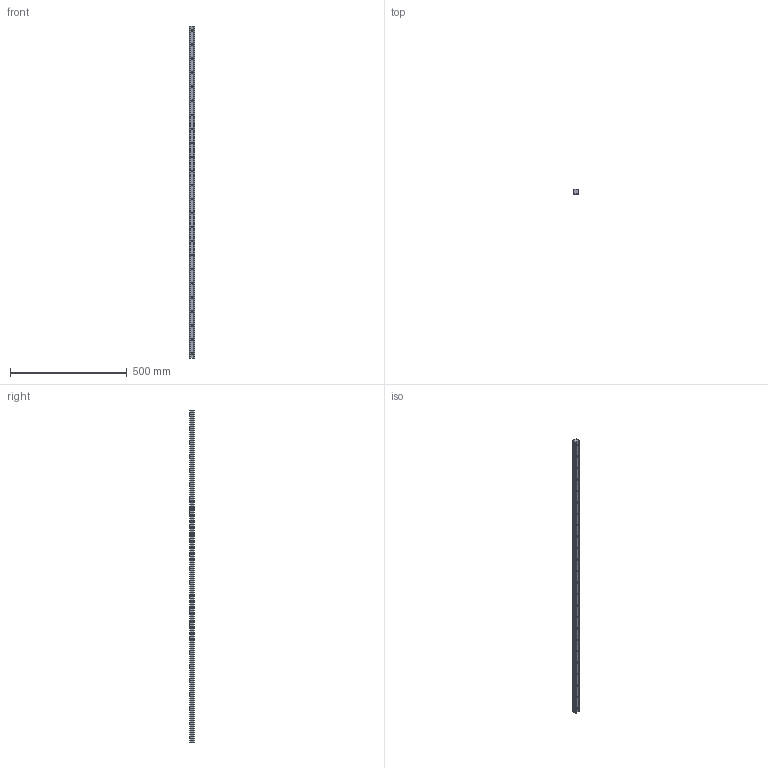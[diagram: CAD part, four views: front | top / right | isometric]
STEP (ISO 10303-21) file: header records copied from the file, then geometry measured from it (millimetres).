
FILE_DESCRIPTION (( 'STEP AP203' ), '1' );
FILE_NAME ('L1016.BL25-1420.step', '2019-06-12T12:07:41', ( '' ), ( '' ), 'SwSTEP 2.0', 'SolidWorks 2017', '' );
FILE_SCHEMA (( 'CONFIG_CONTROL_DESIGN' ));
Length unit declared in the file: millimetre
Products named in the file (1): L1016.BL25-1420
Bounding box: 23 x 19.2 x 1420 mm (x, y, z)
Volume: 523081.1 mm3; surface area: 134834.2 mm2
Topology: 1 solids, 1 shells, 146 faces, 360 edges, 240 vertices
Faces by surface type: cylinder 100, plane 46
Entity records: 4597 total; most frequent: DIRECTION 854, CARTESIAN_POINT 747, ORIENTED_EDGE 720, EDGE_CURVE 360, AXIS2_PLACEMENT_3D 347, VERTEX_POINT 240, EDGE_LOOP 218, CIRCLE 200
